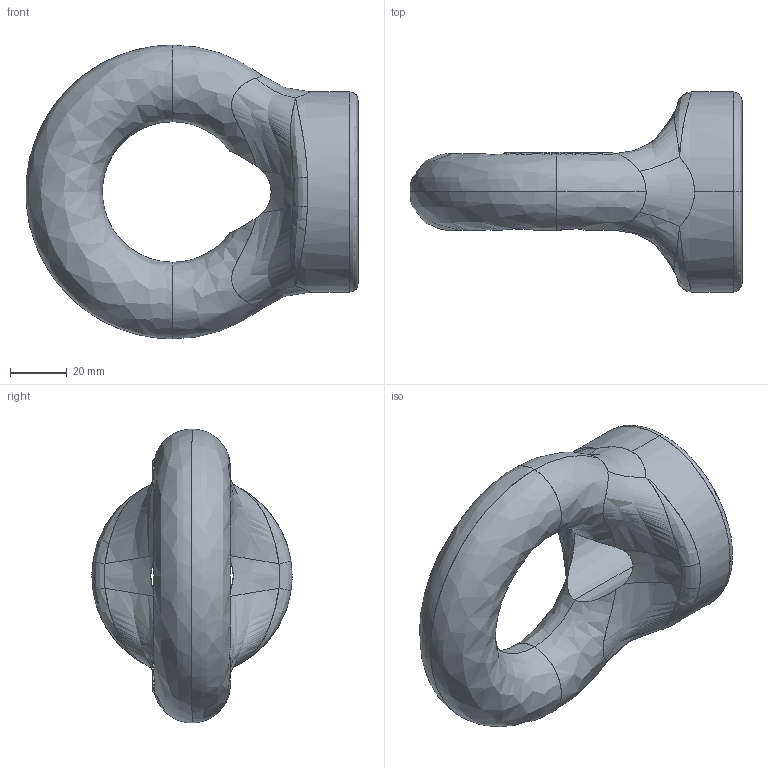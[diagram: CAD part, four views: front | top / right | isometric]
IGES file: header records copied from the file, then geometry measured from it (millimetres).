
Start section: SolidWorks IGES FILE using analytic representation for surfaces
Global section: file name: C:\Documents and Settings\Townley Workstation\Desktop\tooling\Townley products\Eye nuts\eyenut\1250\ENMC30.IGS; native system: SolidWorks 2004 by SolidWorks Corporation; preprocessor: Version 5.3; author: Townley Workstation; date: 100212.094030; units: millimetre
Bounding box: 116.94 x 70.5 x 103.5 mm (x, y, z)
Surface area: 30649 mm2 (no closed solid volume)
Topology: 0 solids, 0 shells, 229 faces, 3080 edges, 3076 vertices
Faces by surface type: bspline 223, revolution 6
